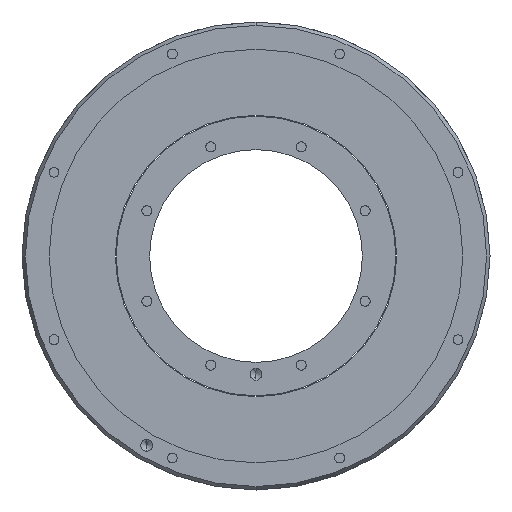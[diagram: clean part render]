
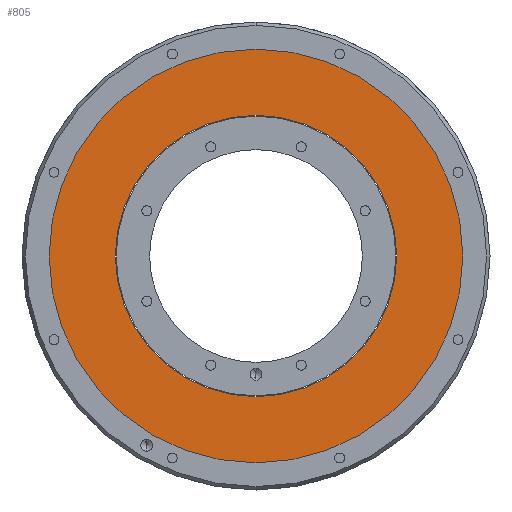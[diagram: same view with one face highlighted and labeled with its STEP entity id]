
A CAD part, front view. The second image highlights one B-rep face of the part: STEP entity #805.
In plain terms, the highlighted planar face has unit normal (0, -1, 0).
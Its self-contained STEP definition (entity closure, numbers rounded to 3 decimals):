
#88 = CIRCLE ( 'NONE', #3312, 87.5 ) ;
#171 = FACE_OUTER_BOUND ( 'NONE', #5450, .T. ) ;
#191 = DIRECTION ( 'NONE',  ( 0., -1., 0. ) ) ;
#321 = EDGE_LOOP ( 'NONE', ( #4062, #4562 ) ) ;
#437 = CARTESIAN_POINT ( 'NONE',  ( 0., 1., 0. ) ) ;
#633 = DIRECTION ( 'NONE',  ( 0., 0., -1. ) ) ;
#766 = CARTESIAN_POINT ( 'NONE',  ( 0., 1., 87.5 ) ) ;
#805 = ADVANCED_FACE ( 'NONE', ( #171, #2497 ), #3622, .T. ) ;
#1010 = AXIS2_PLACEMENT_3D ( 'NONE', #437, #3965, #1723 ) ;
#1032 = DIRECTION ( 'NONE',  ( 0., 0., -1. ) ) ;
#1068 = VERTEX_POINT ( 'NONE', #766 ) ;
#1518 = CIRCLE ( 'NONE', #3713, 59.5 ) ;
#1664 = EDGE_CURVE ( 'NONE', #3921, #1068, #88, .T. ) ;
#1723 = DIRECTION ( 'NONE',  ( 0., 0., -1. ) ) ;
#2187 = VERTEX_POINT ( 'NONE', #2515 ) ;
#2228 = EDGE_CURVE ( 'NONE', #2187, #3333, #1518, .T. ) ;
#2391 = CARTESIAN_POINT ( 'NONE',  ( 0., 1., 0. ) ) ;
#2393 = CARTESIAN_POINT ( 'NONE',  ( 0., 1., 0. ) ) ;
#2497 = FACE_BOUND ( 'NONE', #321, .T. ) ;
#2515 = CARTESIAN_POINT ( 'NONE',  ( 0., 1., -59.5 ) ) ;
#2736 = DIRECTION ( 'NONE',  ( 0., -1., 0. ) ) ;
#2770 = DIRECTION ( 'NONE',  ( 0., -1., 0. ) ) ;
#2833 = DIRECTION ( 'NONE',  ( 0., -1., 0. ) ) ;
#3079 = AXIS2_PLACEMENT_3D ( 'NONE', #3564, #2770, #3124 ) ;
#3124 = DIRECTION ( 'NONE',  ( 0., 0., -1. ) ) ;
#3207 = CARTESIAN_POINT ( 'NONE',  ( 0., 1., 0. ) ) ;
#3312 = AXIS2_PLACEMENT_3D ( 'NONE', #2391, #2833, #5429 ) ;
#3333 = VERTEX_POINT ( 'NONE', #4464 ) ;
#3490 = CARTESIAN_POINT ( 'NONE',  ( 0., 1., -87.5 ) ) ;
#3564 = CARTESIAN_POINT ( 'NONE',  ( 59.5, 1., 0. ) ) ;
#3622 = PLANE ( 'NONE',  #3079 ) ;
#3713 = AXIS2_PLACEMENT_3D ( 'NONE', #3207, #2736, #1032 ) ;
#3921 = VERTEX_POINT ( 'NONE', #3490 ) ;
#3965 = DIRECTION ( 'NONE',  ( 0., -1., 0. ) ) ;
#4062 = ORIENTED_EDGE ( 'NONE', *, *, #2228, .F. ) ;
#4144 = ORIENTED_EDGE ( 'NONE', *, *, #4922, .T. ) ;
#4279 = CIRCLE ( 'NONE', #4872, 87.5 ) ;
#4394 = EDGE_CURVE ( 'NONE', #3333, #2187, #5040, .T. ) ;
#4464 = CARTESIAN_POINT ( 'NONE',  ( 0., 1., 59.5 ) ) ;
#4562 = ORIENTED_EDGE ( 'NONE', *, *, #4394, .F. ) ;
#4872 = AXIS2_PLACEMENT_3D ( 'NONE', #2393, #191, #633 ) ;
#4922 = EDGE_CURVE ( 'NONE', #1068, #3921, #4279, .T. ) ;
#5040 = CIRCLE ( 'NONE', #1010, 59.5 ) ;
#5429 = DIRECTION ( 'NONE',  ( 0., 0., -1. ) ) ;
#5450 = EDGE_LOOP ( 'NONE', ( #5458, #4144 ) ) ;
#5458 = ORIENTED_EDGE ( 'NONE', *, *, #1664, .T. ) ;
